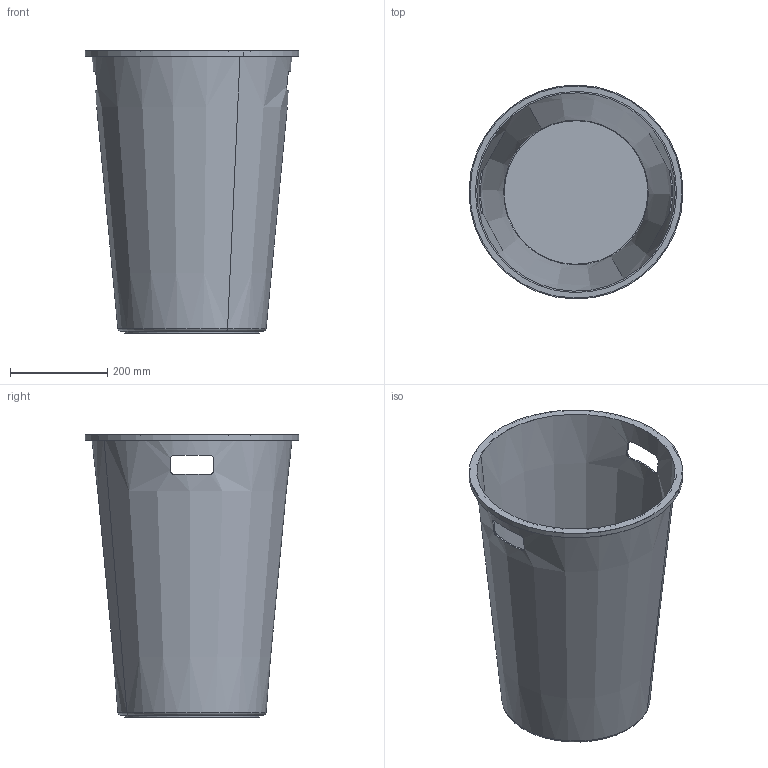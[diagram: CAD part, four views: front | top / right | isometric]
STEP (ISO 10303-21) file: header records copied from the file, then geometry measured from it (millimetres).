
FILE_DESCRIPTION(('CATIA V5 STEP Exchange'),'2;1');
FILE_NAME('D:\MENA 3D\BISMARK\CESTO.stp','2024-11-25T07:15:55+00:00',('none'),('none'),'CATIA Version 5 Release 21 GA (IN-10)','CATIA V5 STEP AP203','none');
FILE_SCHEMA(('CONFIG_CONTROL_DESIGN'));
Length unit declared in the file: millimetre
Products named in the file (1): CESTO
Bounding box: 439.88 x 439.88 x 580 mm (x, y, z)
Volume: 2264212.4 mm3; surface area: 1488938.9 mm2
Topology: 1 solids, 1 shells, 39 faces, 92 edges, 60 vertices
Faces by surface type: cylinder 16, plane 15, cone 4, torus 4
Entity records: 1129 total; most frequent: CARTESIAN_POINT 293, ORIENTED_EDGE 184, DIRECTION 112, EDGE_CURVE 92, AXIS2_PLACEMENT_3D 63, VERTEX_POINT 60, EDGE_LOOP 48, CIRCLE 40
